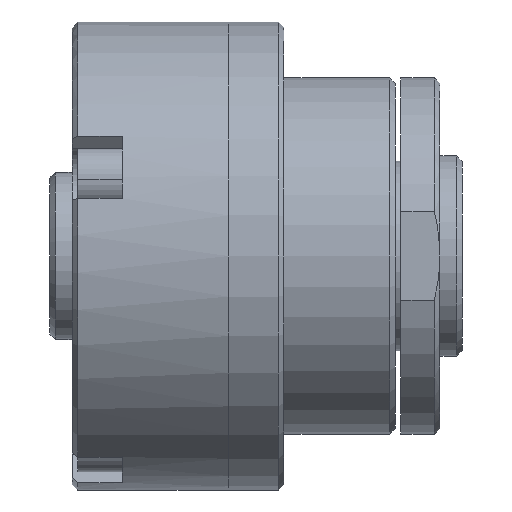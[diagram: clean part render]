
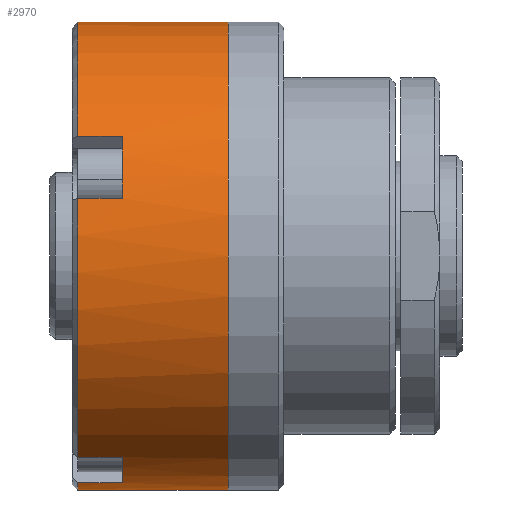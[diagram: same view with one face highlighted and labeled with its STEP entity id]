
A CAD part, left-side view. The second image highlights one B-rep face of the part: STEP entity #2970.
In plain terms, the highlighted cylindrical face has radius 21 mm (diameter 42 mm), a partial arc.
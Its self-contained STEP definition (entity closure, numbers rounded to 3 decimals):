
#24 = DIRECTION ( 'NONE',  ( 0., -1., 0. ) ) ;
#29 = ORIENTED_EDGE ( 'NONE', *, *, #4899, .F. ) ;
#51 = CARTESIAN_POINT ( 'NONE',  ( -5.182, -4.5, -20.351 ) ) ;
#81 = CARTESIAN_POINT ( 'NONE',  ( 0., -14., -21. ) ) ;
#89 = CARTESIAN_POINT ( 'NONE',  ( 0., -14., -21. ) ) ;
#132 = CARTESIAN_POINT ( 'NONE',  ( 0., -14., 21. ) ) ;
#147 = ORIENTED_EDGE ( 'NONE', *, *, #3881, .F. ) ;
#164 = VERTEX_POINT ( 'NONE', #132 ) ;
#173 = ORIENTED_EDGE ( 'NONE', *, *, #653, .T. ) ;
#178 = CARTESIAN_POINT ( 'NONE',  ( -18.054, -0.5, 10.726 ) ) ;
#232 = DIRECTION ( 'NONE',  ( 0., 0., -1. ) ) ;
#267 = DIRECTION ( 'NONE',  ( 0., 1., 0. ) ) ;
#291 = FACE_OUTER_BOUND ( 'NONE', #3871, .T. ) ;
#292 = VECTOR ( 'NONE', #267, 1000. ) ;
#387 = VECTOR ( 'NONE', #4663, 1000. ) ;
#414 = EDGE_CURVE ( 'NONE', #4612, #2720, #4213, .T. ) ;
#574 = CARTESIAN_POINT ( 'NONE',  ( 0., -14., 0. ) ) ;
#653 = EDGE_CURVE ( 'NONE', #164, #1288, #4511, .T. ) ;
#673 = ORIENTED_EDGE ( 'NONE', *, *, #1619, .T. ) ;
#741 = VECTOR ( 'NONE', #3958, 1000. ) ;
#785 = ORIENTED_EDGE ( 'NONE', *, *, #1085, .T. ) ;
#806 = CARTESIAN_POINT ( 'NONE',  ( 0., -0.5, -21. ) ) ;
#813 = EDGE_CURVE ( 'NONE', #1288, #2243, #3564, .T. ) ;
#860 = CIRCLE ( 'NONE', #4507, 21. ) ;
#868 = LINE ( 'NONE', #3975, #741 ) ;
#972 = CARTESIAN_POINT ( 'NONE',  ( 0., -0.5, 0. ) ) ;
#1027 = VERTEX_POINT ( 'NONE', #3749 ) ;
#1045 = CARTESIAN_POINT ( 'NONE',  ( -10.726, -0.5, -18.054 ) ) ;
#1085 = EDGE_CURVE ( 'NONE', #2720, #4898, #2229, .T. ) ;
#1107 = AXIS2_PLACEMENT_3D ( 'NONE', #574, #1321, #4338 ) ;
#1190 = CARTESIAN_POINT ( 'NONE',  ( 0., -4.5, 0. ) ) ;
#1224 = EDGE_CURVE ( 'NONE', #2243, #4291, #1390, .T. ) ;
#1241 = EDGE_CURVE ( 'NONE', #4898, #1452, #3295, .T. ) ;
#1288 = VERTEX_POINT ( 'NONE', #2246 ) ;
#1321 = DIRECTION ( 'NONE',  ( 0., 1., 0. ) ) ;
#1340 = DIRECTION ( 'NONE',  ( 0., 0., -1. ) ) ;
#1390 = LINE ( 'NONE', #2755, #387 ) ;
#1391 = EDGE_CURVE ( 'NONE', #3877, #1452, #3704, .T. ) ;
#1404 = VERTEX_POINT ( 'NONE', #806 ) ;
#1432 = CARTESIAN_POINT ( 'NONE',  ( -10.726, -14., -18.054 ) ) ;
#1452 = VERTEX_POINT ( 'NONE', #1594 ) ;
#1553 = DIRECTION ( 'NONE',  ( 0., 0., -1. ) ) ;
#1559 = AXIS2_PLACEMENT_3D ( 'NONE', #2296, #24, #2671 ) ;
#1594 = CARTESIAN_POINT ( 'NONE',  ( -10.726, -4.5, -18.054 ) ) ;
#1619 = EDGE_CURVE ( 'NONE', #3877, #1027, #868, .T. ) ;
#1626 = CIRCLE ( 'NONE', #3666, 21. ) ;
#1632 = EDGE_CURVE ( 'NONE', #4612, #4291, #1626, .T. ) ;
#1722 = DIRECTION ( 'NONE',  ( 0., 1., 0. ) ) ;
#1986 = CARTESIAN_POINT ( 'NONE',  ( -20.351, -4.5, 5.182 ) ) ;
#2069 = VECTOR ( 'NONE', #2725, 1000. ) ;
#2167 = AXIS2_PLACEMENT_3D ( 'NONE', #4775, #2509, #232 ) ;
#2194 = CYLINDRICAL_SURFACE ( 'NONE', #1107, 21. ) ;
#2196 = DIRECTION ( 'NONE',  ( 0., -1., 0. ) ) ;
#2229 = CIRCLE ( 'NONE', #1559, 21. ) ;
#2243 = VERTEX_POINT ( 'NONE', #178 ) ;
#2246 = CARTESIAN_POINT ( 'NONE',  ( 0., -0.5, 21. ) ) ;
#2257 = VECTOR ( 'NONE', #3825, 1000. ) ;
#2296 = CARTESIAN_POINT ( 'NONE',  ( 0., -0.5, 0. ) ) ;
#2411 = ORIENTED_EDGE ( 'NONE', *, *, #813, .T. ) ;
#2477 = ORIENTED_EDGE ( 'NONE', *, *, #1391, .F. ) ;
#2509 = DIRECTION ( 'NONE',  ( 0., -1., 0. ) ) ;
#2622 = ORIENTED_EDGE ( 'NONE', *, *, #1224, .T. ) ;
#2671 = DIRECTION ( 'NONE',  ( 0., 0., -1. ) ) ;
#2720 = VERTEX_POINT ( 'NONE', #4194 ) ;
#2725 = DIRECTION ( 'NONE',  ( 0., 1., 0. ) ) ;
#2755 = CARTESIAN_POINT ( 'NONE',  ( -18.054, -14., 10.726 ) ) ;
#2919 = CARTESIAN_POINT ( 'NONE',  ( -20.351, -14., 5.182 ) ) ;
#2970 = ADVANCED_FACE ( 'NONE', ( #291 ), #2194, .T. ) ;
#3078 = CARTESIAN_POINT ( 'NONE',  ( 0., -14., 21. ) ) ;
#3204 = LINE ( 'NONE', #81, #2069 ) ;
#3244 = ORIENTED_EDGE ( 'NONE', *, *, #414, .T. ) ;
#3256 = ORIENTED_EDGE ( 'NONE', *, *, #1241, .T. ) ;
#3295 = LINE ( 'NONE', #1432, #3539 ) ;
#3316 = CARTESIAN_POINT ( 'NONE',  ( -18.054, -4.5, 10.726 ) ) ;
#3503 = ORIENTED_EDGE ( 'NONE', *, *, #4153, .T. ) ;
#3513 = AXIS2_PLACEMENT_3D ( 'NONE', #1190, #3835, #1553 ) ;
#3525 = AXIS2_PLACEMENT_3D ( 'NONE', #972, #3619, #1340 ) ;
#3539 = VECTOR ( 'NONE', #4475, 1000. ) ;
#3564 = CIRCLE ( 'NONE', #2167, 21. ) ;
#3619 = DIRECTION ( 'NONE',  ( 0., -1., 0. ) ) ;
#3666 = AXIS2_PLACEMENT_3D ( 'NONE', #3986, #1722, #4372 ) ;
#3704 = CIRCLE ( 'NONE', #3513, 21. ) ;
#3749 = CARTESIAN_POINT ( 'NONE',  ( -5.182, -0.5, -20.351 ) ) ;
#3823 = CIRCLE ( 'NONE', #3525, 21. ) ;
#3825 = DIRECTION ( 'NONE',  ( 0., 1., 0. ) ) ;
#3835 = DIRECTION ( 'NONE',  ( 0., 1., 0. ) ) ;
#3871 = EDGE_LOOP ( 'NONE', ( #147, #29, #173, #2411, #2622, #4906, #3244, #785, #3256, #2477, #673, #3503 ) ) ;
#3877 = VERTEX_POINT ( 'NONE', #51 ) ;
#3881 = EDGE_CURVE ( 'NONE', #3949, #1404, #3204, .T. ) ;
#3949 = VERTEX_POINT ( 'NONE', #89 ) ;
#3958 = DIRECTION ( 'NONE',  ( 0., 1., 0. ) ) ;
#3975 = CARTESIAN_POINT ( 'NONE',  ( -5.182, -14., -20.351 ) ) ;
#3986 = CARTESIAN_POINT ( 'NONE',  ( 0., -4.5, 0. ) ) ;
#4153 = EDGE_CURVE ( 'NONE', #1027, #1404, #3823, .T. ) ;
#4194 = CARTESIAN_POINT ( 'NONE',  ( -20.351, -0.5, 5.182 ) ) ;
#4213 = LINE ( 'NONE', #2919, #292 ) ;
#4291 = VERTEX_POINT ( 'NONE', #3316 ) ;
#4338 = DIRECTION ( 'NONE',  ( 0., 0., 1. ) ) ;
#4372 = DIRECTION ( 'NONE',  ( -1., 0., 0. ) ) ;
#4457 = CARTESIAN_POINT ( 'NONE',  ( 0., -14., 0. ) ) ;
#4475 = DIRECTION ( 'NONE',  ( 0., -1., 0. ) ) ;
#4507 = AXIS2_PLACEMENT_3D ( 'NONE', #4457, #2196, #4841 ) ;
#4511 = LINE ( 'NONE', #3078, #2257 ) ;
#4612 = VERTEX_POINT ( 'NONE', #1986 ) ;
#4663 = DIRECTION ( 'NONE',  ( 0., -1., 0. ) ) ;
#4775 = CARTESIAN_POINT ( 'NONE',  ( 0., -0.5, 0. ) ) ;
#4841 = DIRECTION ( 'NONE',  ( 0., 0., -1. ) ) ;
#4898 = VERTEX_POINT ( 'NONE', #1045 ) ;
#4899 = EDGE_CURVE ( 'NONE', #164, #3949, #860, .T. ) ;
#4906 = ORIENTED_EDGE ( 'NONE', *, *, #1632, .F. ) ;
